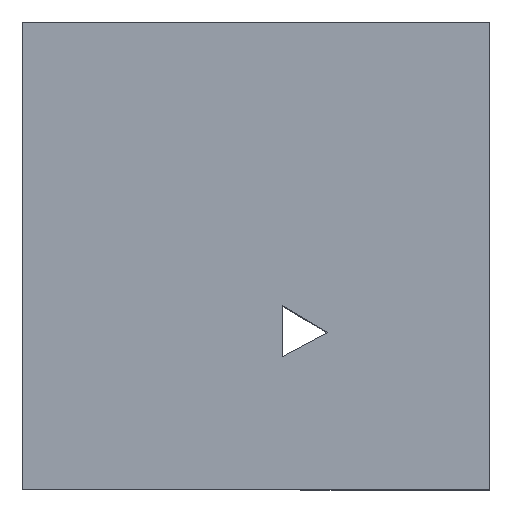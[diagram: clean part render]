
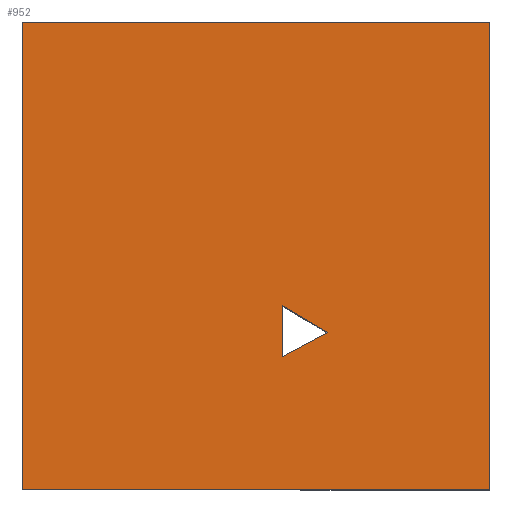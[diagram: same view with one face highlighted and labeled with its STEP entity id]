
A CAD part, top view. The second image highlights one B-rep face of the part: STEP entity #952.
In plain terms, the highlighted planar face has unit normal (0, 0, 1).
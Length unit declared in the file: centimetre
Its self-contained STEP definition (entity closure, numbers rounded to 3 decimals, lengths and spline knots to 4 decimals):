
#1 = EDGE_LOOP ( 'NONE', ( #828, #662, #610, #1063 ) ) ;
#16 = EDGE_CURVE ( 'NONE', #985, #561, #1050, .T. ) ;
#48 = LINE ( 'NONE', #920, #308 ) ;
#72 = EDGE_LOOP ( 'NONE', ( #738, #909, #669 ) ) ;
#76 = CARTESIAN_POINT ( 'NONE',  ( 0., 1000., 1000. ) ) ;
#82 = LINE ( 'NONE', #452, #577 ) ;
#86 = LINE ( 'NONE', #1107, #366 ) ;
#103 = CARTESIAN_POINT ( 'NONE',  ( 0., 0., 1000. ) ) ;
#112 = EDGE_CURVE ( 'NONE', #1072, #985, #86, .T. ) ;
#189 = DIRECTION ( 'NONE',  ( 0., 0., 1. ) ) ;
#204 = LINE ( 'NONE', #791, #1056 ) ;
#240 = EDGE_CURVE ( 'NONE', #518, #1072, #905, .T. ) ;
#255 = FACE_OUTER_BOUND ( 'NONE', #1, .T. ) ;
#273 = VECTOR ( 'NONE', #863, 100. ) ;
#274 = DIRECTION ( 'NONE',  ( -1., 0., 0. ) ) ;
#277 = EDGE_CURVE ( 'NONE', #1116, #651, #374, .T. ) ;
#288 = DIRECTION ( 'NONE',  ( -0.858, 0.514, 0. ) ) ;
#289 = VECTOR ( 'NONE', #274, 100. ) ;
#299 = CARTESIAN_POINT ( 'NONE',  ( 0., 1000., 1000. ) ) ;
#308 = VECTOR ( 'NONE', #438, 100. ) ;
#333 = EDGE_CURVE ( 'NONE', #462, #1116, #82, .T. ) ;
#346 = CARTESIAN_POINT ( 'NONE',  ( 1000., 1000., 1000. ) ) ;
#366 = VECTOR ( 'NONE', #1134, 100. ) ;
#374 = LINE ( 'NONE', #1156, #989 ) ;
#438 = DIRECTION ( 'NONE',  ( 0., -1., 0. ) ) ;
#452 = CARTESIAN_POINT ( 'NONE',  ( 556.8561, 283.6888, 1000. ) ) ;
#462 = VERTEX_POINT ( 'NONE', #523 ) ;
#476 = CARTESIAN_POINT ( 'NONE',  ( 0., 0., 1000. ) ) ;
#518 = VERTEX_POINT ( 'NONE', #346 ) ;
#523 = CARTESIAN_POINT ( 'NONE',  ( 556.8561, 283.6888, 1000. ) ) ;
#561 = VERTEX_POINT ( 'NONE', #653 ) ;
#571 = DIRECTION ( 'NONE',  ( 1., 0., 0. ) ) ;
#577 = VECTOR ( 'NONE', #740, 100. ) ;
#610 = ORIENTED_EDGE ( 'NONE', *, *, #1068, .T. ) ;
#651 = VERTEX_POINT ( 'NONE', #1092 ) ;
#653 = CARTESIAN_POINT ( 'NONE',  ( 1000., 0., 1000. ) ) ;
#656 = PLANE ( 'NONE',  #897 ) ;
#662 = ORIENTED_EDGE ( 'NONE', *, *, #16, .T. ) ;
#664 = EDGE_CURVE ( 'NONE', #651, #462, #48, .T. ) ;
#669 = ORIENTED_EDGE ( 'NONE', *, *, #333, .F. ) ;
#738 = ORIENTED_EDGE ( 'NONE', *, *, #664, .F. ) ;
#740 = DIRECTION ( 'NONE',  ( 0.882, 0.472, 0. ) ) ;
#791 = CARTESIAN_POINT ( 'NONE',  ( 1000., 1000., 1000. ) ) ;
#828 = ORIENTED_EDGE ( 'NONE', *, *, #112, .T. ) ;
#863 = DIRECTION ( 'NONE',  ( 1., 0., 0. ) ) ;
#897 = AXIS2_PLACEMENT_3D ( 'NONE', #476, #189, #571 ) ;
#905 = LINE ( 'NONE', #76, #289 ) ;
#909 = ORIENTED_EDGE ( 'NONE', *, *, #277, .F. ) ;
#920 = CARTESIAN_POINT ( 'NONE',  ( 556.8561, 392.9516, 1000. ) ) ;
#952 = ADVANCED_FACE ( 'NONE', ( #1204, #255 ), #656, .T. ) ;
#959 = DIRECTION ( 'NONE',  ( 0., 1., 0. ) ) ;
#964 = CARTESIAN_POINT ( 'NONE',  ( 653.252, 335.2518, 1000. ) ) ;
#985 = VERTEX_POINT ( 'NONE', #1054 ) ;
#989 = VECTOR ( 'NONE', #288, 100. ) ;
#1050 = LINE ( 'NONE', #103, #273 ) ;
#1054 = CARTESIAN_POINT ( 'NONE',  ( 0., 0., 1000. ) ) ;
#1056 = VECTOR ( 'NONE', #959, 100. ) ;
#1063 = ORIENTED_EDGE ( 'NONE', *, *, #240, .T. ) ;
#1068 = EDGE_CURVE ( 'NONE', #561, #518, #204, .T. ) ;
#1072 = VERTEX_POINT ( 'NONE', #299 ) ;
#1092 = CARTESIAN_POINT ( 'NONE',  ( 556.8561, 392.9516, 1000. ) ) ;
#1107 = CARTESIAN_POINT ( 'NONE',  ( 0., 1000., 1000. ) ) ;
#1116 = VERTEX_POINT ( 'NONE', #964 ) ;
#1134 = DIRECTION ( 'NONE',  ( 0., -1., 0. ) ) ;
#1156 = CARTESIAN_POINT ( 'NONE',  ( 653.252, 335.2518, 1000. ) ) ;
#1204 = FACE_BOUND ( 'NONE', #72, .T. ) ;
